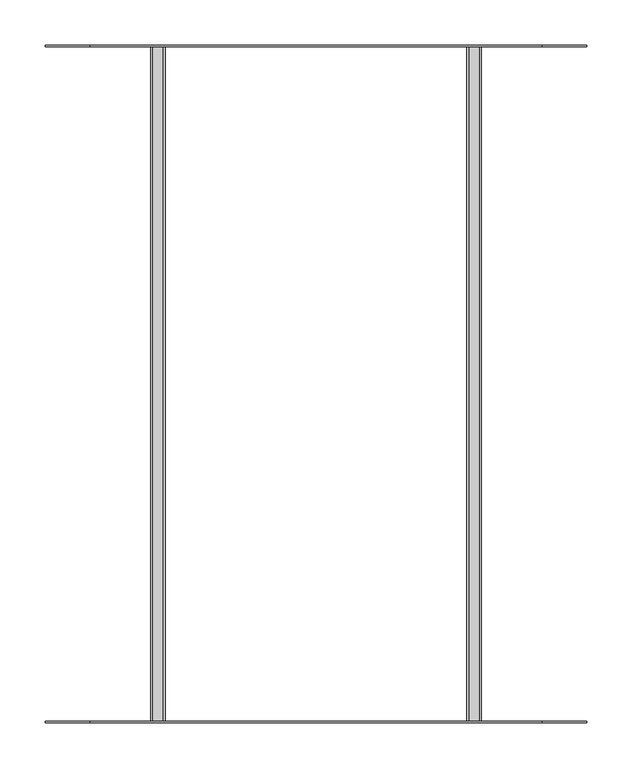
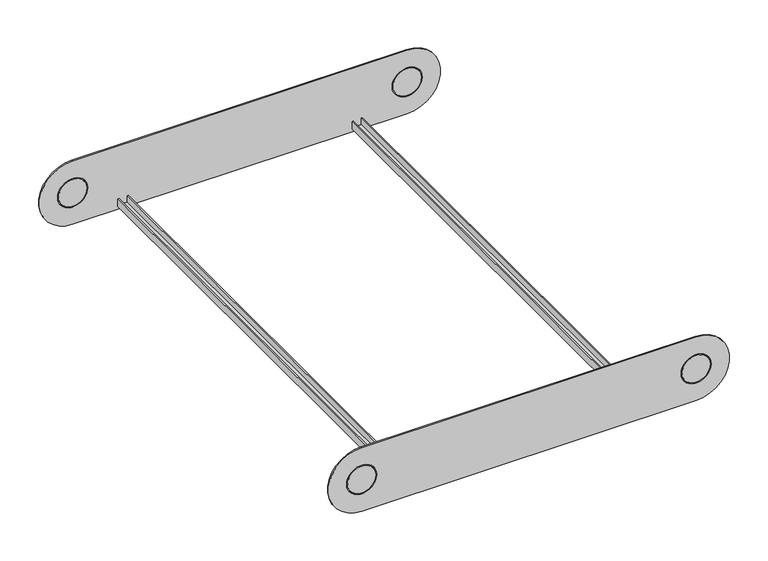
"""IFC4 building model written with IfcOpenShell, lengths in millimetres: cable carrier fitting geometry, BAKS_LDLS_BEND_Adjustable vertical bend element_ELDS : ELDSC_H100."""

from ifc_helpers import new_model, si_unit, point, frame, frame_2d, origin, origin_2d, place, context, project, spatial, polyline, circle_curve, trimmed, segment, composite_curve, outline, extrude, source, transform, mapped, element, save


def cable_carrier_fitting_ce7a3b76(model_context):
    return source(origin(), model_context, "Body", "SweptSolid", [
        extrude(outline(composite_curve([segment(polyline([(50.0, 500.0), (50.0, 0.0)]), True, "CONTINUOUS"), segment(trimmed(circle_curve(origin_2d(), 50.0), [point((50.0, 0.0))], [point((-50.0, 0.0))], False, "CARTESIAN"), True, "CONTINUOUS"), segment(polyline([(-50.0, 0.0), (-50.0, 500.0)]), True, "CONTINUOUS"), segment(trimmed(circle_curve(frame_2d((0.0, 500.0)), 50.0), [point((-50.0, 500.0))], [point((50.0, 500.0))], False, "CARTESIAN"), True, "CONTINUOUS")], self_intersect=False), holes=[composite_curve([segment(trimmed(circle_curve(origin_2d(), 22.5), [point((0.0, -22.5))], [point((0.0, 22.5))], True, "CARTESIAN"), True, "CONTINUOUS"), segment(trimmed(circle_curve(origin_2d(), 22.5), [point((0.0, 22.5))], [point((0.0, -22.5))], True, "CARTESIAN"), True, "CONTINUOUS")], self_intersect=False), composite_curve([segment(trimmed(circle_curve(frame_2d((0.0, 500.0)), 22.5), [point((0.0, 477.5))], [point((0.0, 522.5))], True, "CARTESIAN"), True, "CONTINUOUS"), segment(trimmed(circle_curve(frame_2d((0.0, 500.0)), 22.5), [point((0.0, 522.5))], [point((0.0, 477.5))], True, "CARTESIAN"), True, "CONTINUOUS")], self_intersect=False)]), frame((0.0, 373.0, 0.0), z_axis=(0.0, 1.0, 0.0), x_axis=(0.0, 0.0, 1.0)), (0.0, 0.0, 1.0), 2.0),
        extrude(outline(composite_curve([segment(trimmed(circle_curve(origin_2d(), 21.0), [point((0.0, -21.0))], [point((0.0, 21.0))], False, "CARTESIAN"), True, "CONTINUOUS"), segment(trimmed(circle_curve(origin_2d(), 21.0), [point((0.0, 21.0))], [point((0.0, -21.0))], False, "CARTESIAN"), True, "CONTINUOUS")], self_intersect=False)), frame((0.0, 373.0, 0.0), z_axis=(0.0, 1.0, 0.0), x_axis=(0.0, 0.0, 1.0)), (0.0, 0.0, 1.0), 2.0),
        extrude(outline(composite_curve([segment(trimmed(circle_curve(frame_2d((0.0, 500.0)), 21.0), [point((0.0, 479.0))], [point((0.0, 521.0))], False, "CARTESIAN"), True, "CONTINUOUS"), segment(trimmed(circle_curve(frame_2d((0.0, 500.0)), 21.0), [point((0.0, 521.0))], [point((0.0, 479.0))], False, "CARTESIAN"), True, "CONTINUOUS")], self_intersect=False)), frame((0.0, 373.0, 0.0), z_axis=(0.0, 1.0, 0.0), x_axis=(0.0, 0.0, 1.0)), (0.0, 0.0, 1.0), 2.0),
        extrude(outline(composite_curve([segment(polyline([(50.0, 500.0), (50.0, 0.0)]), True, "CONTINUOUS"), segment(trimmed(circle_curve(origin_2d(), 50.0), [point((50.0, 0.0))], [point((-50.0, 0.0))], False, "CARTESIAN"), True, "CONTINUOUS"), segment(polyline([(-50.0, 0.0), (-50.0, 500.0)]), True, "CONTINUOUS"), segment(trimmed(circle_curve(frame_2d((0.0, 500.0)), 50.0), [point((-50.0, 500.0))], [point((50.0, 500.0))], False, "CARTESIAN"), True, "CONTINUOUS")], self_intersect=False), holes=[composite_curve([segment(trimmed(circle_curve(origin_2d(), 22.5), [point((0.0, -22.5))], [point((0.0, 22.5))], True, "CARTESIAN"), True, "CONTINUOUS"), segment(trimmed(circle_curve(origin_2d(), 22.5), [point((0.0, 22.5))], [point((0.0, -22.5))], True, "CARTESIAN"), True, "CONTINUOUS")], self_intersect=False), composite_curve([segment(trimmed(circle_curve(frame_2d((0.0, 500.0)), 22.5), [point((0.0, 477.5))], [point((0.0, 522.5))], True, "CARTESIAN"), True, "CONTINUOUS"), segment(trimmed(circle_curve(frame_2d((0.0, 500.0)), 22.5), [point((0.0, 522.5))], [point((0.0, 477.5))], True, "CARTESIAN"), True, "CONTINUOUS")], self_intersect=False)]), frame((0.0, -375.0, 0.0), z_axis=(0.0, 1.0, 0.0), x_axis=(0.0, 0.0, 1.0)), (0.0, 0.0, 1.0), 2.0),
        extrude(outline(composite_curve([segment(trimmed(circle_curve(origin_2d(), 21.0), [point((0.0, -21.0))], [point((0.0, 21.0))], False, "CARTESIAN"), True, "CONTINUOUS"), segment(trimmed(circle_curve(origin_2d(), 21.0), [point((0.0, 21.0))], [point((0.0, -21.0))], False, "CARTESIAN"), True, "CONTINUOUS")], self_intersect=False)), frame((0.0, -375.0, 0.0), z_axis=(0.0, 1.0, 0.0), x_axis=(0.0, 0.0, 1.0)), (0.0, 0.0, 1.0), 2.0),
        extrude(outline(composite_curve([segment(trimmed(circle_curve(frame_2d((0.0, 500.0)), 21.0), [point((0.0, 479.0))], [point((0.0, 521.0))], False, "CARTESIAN"), True, "CONTINUOUS"), segment(trimmed(circle_curve(frame_2d((0.0, 500.0)), 21.0), [point((0.0, 521.0))], [point((0.0, 479.0))], False, "CARTESIAN"), True, "CONTINUOUS")], self_intersect=False)), frame((0.0, -375.0, 0.0), z_axis=(0.0, 1.0, 0.0), x_axis=(0.0, 0.0, 1.0)), (0.0, 0.0, 1.0), 2.0),
        extrude(outline(polyline([(-45.0, 417.0), (-45.0, 433.0), (-33.0, 433.0), (-33.0, 431.0), (-43.0, 431.0), (-43.0, 419.0), (-33.0, 419.0), (-33.0, 417.0), (-45.0, 417.0)])), frame((0.0, -373.0, 0.0), z_axis=(0.0, 1.0, 0.0), x_axis=(0.0, 0.0, 1.0)), (0.0, 0.0, 1.0), 746.0),
        extrude(outline(polyline([(-45.0, 67.0), (-45.0, 83.0), (-33.0, 83.0), (-33.0, 81.0), (-43.0, 81.0), (-43.0, 69.0), (-33.0, 69.0), (-33.0, 67.0), (-45.0, 67.0)])), frame((0.0, -373.0, 0.0), z_axis=(0.0, 1.0, 0.0), x_axis=(0.0, 0.0, 1.0)), (0.0, 0.0, 1.0), 746.0),
    ])


if __name__ == "__main__":
    model = new_model("IFC4")
    model_context = context("Model", 3, world=origin())
    ifc_project = project(units=[si_unit("LENGTHUNIT", "METRE", prefix="MILLI")], contexts=[model_context])
    site = spatial("IfcSite", under=ifc_project)
    building = spatial("IfcBuilding", under=site)
    placement = place(None, origin())
    cable_carrier_fitting_shape = cable_carrier_fitting_ce7a3b76(model_context)
    element("IfcCableCarrierFitting", 1, ObjectType="BAKS_LDLS_BEND_Adjustable vertical bend element_ELDS : ELDSC_H100", at=placement, inside=building, context=model_context, shape_type="MappedRepresentation", body=[
        mapped(cable_carrier_fitting_shape, transform((0.0, 0.0, 0.0), x_axis=(1.0, 0.0, 0.0), y_axis=(0.0, 1.0, 0.0), z_axis=(0.0, 0.0, 1.0))),
    ])
    save(model, "model.ifc")
